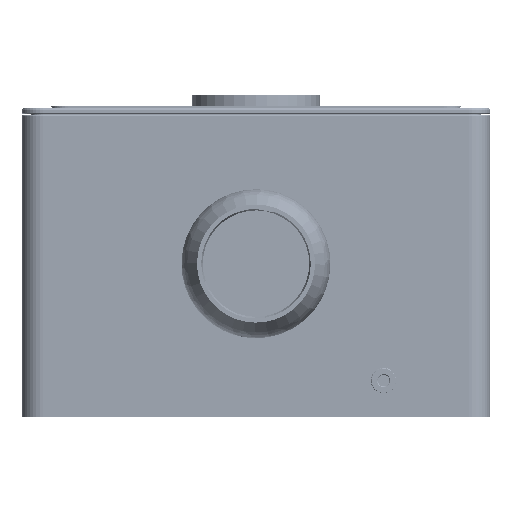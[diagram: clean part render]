
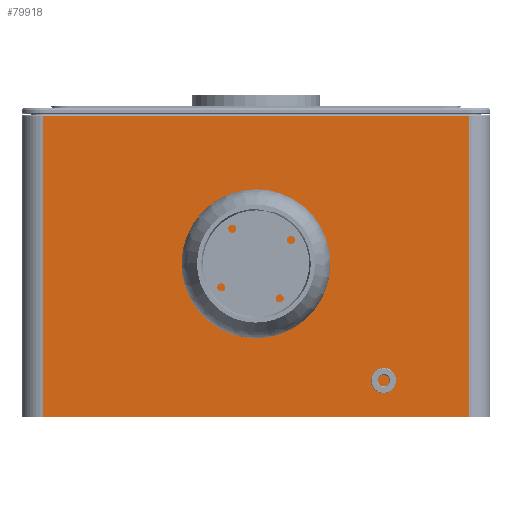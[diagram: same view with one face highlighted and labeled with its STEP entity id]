
A CAD part, front view. The second image highlights one B-rep face of the part: STEP entity #79918.
In plain terms, the highlighted planar face has unit normal (0, -1, 0).
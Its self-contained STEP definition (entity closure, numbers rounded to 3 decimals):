
#226 = CARTESIAN_POINT ( 'NONE',  ( 0., -140., 0. ) ) ;
#300 = EDGE_CURVE ( 'NONE', #74781, #137056, #21604, .T. ) ;
#927 = DIRECTION ( 'NONE',  ( 0., 0., -1. ) ) ;
#2817 = ORIENTED_EDGE ( 'NONE', *, *, #86633, .F. ) ;
#3390 = CIRCLE ( 'NONE', #62589, 4. ) ;
#4104 = DIRECTION ( 'NONE',  ( 0., -1., 0. ) ) ;
#4837 = CARTESIAN_POINT ( 'NONE',  ( 100., -140., 70. ) ) ;
#5921 = FACE_BOUND ( 'NONE', #22614, .T. ) ;
#6804 = VERTEX_POINT ( 'NONE', #95078 ) ;
#7300 = DIRECTION ( 'NONE',  ( 0., 0., -1. ) ) ;
#7828 = VERTEX_POINT ( 'NONE', #75505 ) ;
#8050 = PLANE ( 'NONE',  #116835 ) ;
#9218 = CIRCLE ( 'NONE', #22850, 1.8 ) ;
#10758 = LINE ( 'NONE', #54207, #121078 ) ;
#14528 = CARTESIAN_POINT ( 'NONE',  ( -14., -140., 12.2 ) ) ;
#15131 = ORIENTED_EDGE ( 'NONE', *, *, #100258, .T. ) ;
#16504 = CARTESIAN_POINT ( 'NONE',  ( 0., -140., 0. ) ) ;
#16589 = CIRCLE ( 'NONE', #112101, 4. ) ;
#17746 = ORIENTED_EDGE ( 'NONE', *, *, #109202, .F. ) ;
#17856 = ORIENTED_EDGE ( 'NONE', *, *, #134699, .F. ) ;
#17966 = CARTESIAN_POINT ( 'NONE',  ( 14., -140., 14. ) ) ;
#18725 = FACE_BOUND ( 'NONE', #138112, .T. ) ;
#19285 = AXIS2_PLACEMENT_3D ( 'NONE', #113722, #4104, #81004 ) ;
#19867 = CARTESIAN_POINT ( 'NONE',  ( 14., -140., -14. ) ) ;
#20876 = DIRECTION ( 'NONE',  ( -1., 0., 0. ) ) ;
#21604 = CIRCLE ( 'NONE', #19285, 1.8 ) ;
#22614 = EDGE_LOOP ( 'NONE', ( #96143, #2817 ) ) ;
#22850 = AXIS2_PLACEMENT_3D ( 'NONE', #17966, #49348, #7300 ) ;
#22980 = CARTESIAN_POINT ( 'NONE',  ( -100., -140., -72. ) ) ;
#23759 = DIRECTION ( 'NONE',  ( 0., 0., -1. ) ) ;
#24153 = LINE ( 'NONE', #4837, #31942 ) ;
#25548 = DIRECTION ( 'NONE',  ( 0., 0., -1. ) ) ;
#27313 = FACE_BOUND ( 'NONE', #44460, .T. ) ;
#31942 = VECTOR ( 'NONE', #25548, 1000. ) ;
#34784 = LINE ( 'NONE', #112312, #73362 ) ;
#35759 = EDGE_CURVE ( 'NONE', #52061, #140087, #9218, .T. ) ;
#37911 = CARTESIAN_POINT ( 'NONE',  ( -14., -140., -12.2 ) ) ;
#39407 = ORIENTED_EDGE ( 'NONE', *, *, #135590, .F. ) ;
#40891 = VERTEX_POINT ( 'NONE', #138636 ) ;
#42330 = EDGE_CURVE ( 'NONE', #53230, #114057, #34784, .T. ) ;
#42542 = DIRECTION ( 'NONE',  ( 0., -1., 0. ) ) ;
#44460 = EDGE_LOOP ( 'NONE', ( #58910, #63777 ) ) ;
#46294 = CIRCLE ( 'NONE', #116828, 1.8 ) ;
#48294 = EDGE_LOOP ( 'NONE', ( #111867, #94812 ) ) ;
#49348 = DIRECTION ( 'NONE',  ( 0., -1., 0. ) ) ;
#49386 = FACE_OUTER_BOUND ( 'NONE', #96244, .T. ) ;
#49471 = CARTESIAN_POINT ( 'NONE',  ( 14., -140., 14. ) ) ;
#52061 = VERTEX_POINT ( 'NONE', #88568 ) ;
#52951 = LINE ( 'NONE', #118389, #70808 ) ;
#53230 = VERTEX_POINT ( 'NONE', #66117 ) ;
#54033 = DIRECTION ( 'NONE',  ( 0., 0., -1. ) ) ;
#54207 = CARTESIAN_POINT ( 'NONE',  ( 100., -140., -72. ) ) ;
#54391 = DIRECTION ( 'NONE',  ( 0., -1., 0. ) ) ;
#57598 = DIRECTION ( 'NONE',  ( 0., -1., 0. ) ) ;
#58218 = DIRECTION ( 'NONE',  ( 0., 0., -1. ) ) ;
#58910 = ORIENTED_EDGE ( 'NONE', *, *, #35759, .F. ) ;
#59331 = DIRECTION ( 'NONE',  ( 0., 1., 0. ) ) ;
#59945 = DIRECTION ( 'NONE',  ( 0., -1., 0. ) ) ;
#61880 = DIRECTION ( 'NONE',  ( 0., 0., -1. ) ) ;
#62151 = CIRCLE ( 'NONE', #66613, 1.8 ) ;
#62589 = AXIS2_PLACEMENT_3D ( 'NONE', #226, #77085, #927 ) ;
#63777 = ORIENTED_EDGE ( 'NONE', *, *, #123794, .F. ) ;
#66117 = CARTESIAN_POINT ( 'NONE',  ( -100., -140., 69.5 ) ) ;
#66613 = AXIS2_PLACEMENT_3D ( 'NONE', #113087, #57598, #136528 ) ;
#70808 = VECTOR ( 'NONE', #20876, 1000. ) ;
#72177 = EDGE_LOOP ( 'NONE', ( #17856, #89341 ) ) ;
#72483 = AXIS2_PLACEMENT_3D ( 'NONE', #99892, #54391, #23759 ) ;
#73362 = VECTOR ( 'NONE', #58218, 1000. ) ;
#73628 = CIRCLE ( 'NONE', #123665, 1.8 ) ;
#73643 = CARTESIAN_POINT ( 'NONE',  ( 14., -140., -12.2 ) ) ;
#74781 = VERTEX_POINT ( 'NONE', #14528 ) ;
#75505 = CARTESIAN_POINT ( 'NONE',  ( 100., -140., -72. ) ) ;
#76087 = CARTESIAN_POINT ( 'NONE',  ( -14., -140., -14. ) ) ;
#77085 = DIRECTION ( 'NONE',  ( 0., -1., 0. ) ) ;
#78685 = DIRECTION ( 'NONE',  ( 0., 0., -1. ) ) ;
#79918 = ADVANCED_FACE ( 'NONE', ( #103472, #27313, #92784, #5921, #18725, #49386 ), #8050, .F. ) ;
#80764 = CARTESIAN_POINT ( 'NONE',  ( 14., -140., 15.8 ) ) ;
#81004 = DIRECTION ( 'NONE',  ( 0., 0., -1. ) ) ;
#84827 = DIRECTION ( 'NONE',  ( 0., 0., -1. ) ) ;
#85026 = VERTEX_POINT ( 'NONE', #111668 ) ;
#86030 = DIRECTION ( 'NONE',  ( 0., -1., 0. ) ) ;
#86633 = EDGE_CURVE ( 'NONE', #137056, #74781, #73628, .T. ) ;
#87744 = ORIENTED_EDGE ( 'NONE', *, *, #118019, .F. ) ;
#88568 = CARTESIAN_POINT ( 'NONE',  ( 14., -140., 12.2 ) ) ;
#88572 = CARTESIAN_POINT ( 'NONE',  ( -14., -140., 15.8 ) ) ;
#89286 = VERTEX_POINT ( 'NONE', #128170 ) ;
#89341 = ORIENTED_EDGE ( 'NONE', *, *, #136320, .F. ) ;
#89442 = CIRCLE ( 'NONE', #114448, 1.8 ) ;
#90903 = CARTESIAN_POINT ( 'NONE',  ( 0., -140., 4. ) ) ;
#92784 = FACE_BOUND ( 'NONE', #72177, .T. ) ;
#94199 = DIRECTION ( 'NONE',  ( 0., 0., 1. ) ) ;
#94812 = ORIENTED_EDGE ( 'NONE', *, *, #118599, .F. ) ;
#95078 = CARTESIAN_POINT ( 'NONE',  ( -14., -140., -15.8 ) ) ;
#95921 = AXIS2_PLACEMENT_3D ( 'NONE', #19867, #127333, #61880 ) ;
#96143 = ORIENTED_EDGE ( 'NONE', *, *, #300, .F. ) ;
#96244 = EDGE_LOOP ( 'NONE', ( #126239, #15131, #99525, #39407 ) ) ;
#96863 = EDGE_CURVE ( 'NONE', #89286, #7828, #24153, .T. ) ;
#97597 = DIRECTION ( 'NONE',  ( -1., 0., 0. ) ) ;
#99525 = ORIENTED_EDGE ( 'NONE', *, *, #42330, .T. ) ;
#99892 = CARTESIAN_POINT ( 'NONE',  ( -14., -140., -14. ) ) ;
#100258 = EDGE_CURVE ( 'NONE', #89286, #53230, #52951, .T. ) ;
#103472 = FACE_BOUND ( 'NONE', #48294, .T. ) ;
#109202 = EDGE_CURVE ( 'NONE', #40891, #139370, #3390, .T. ) ;
#111158 = VERTEX_POINT ( 'NONE', #73643 ) ;
#111668 = CARTESIAN_POINT ( 'NONE',  ( 14., -140., -15.8 ) ) ;
#111867 = ORIENTED_EDGE ( 'NONE', *, *, #115684, .F. ) ;
#112101 = AXIS2_PLACEMENT_3D ( 'NONE', #16504, #59945, #84827 ) ;
#112312 = CARTESIAN_POINT ( 'NONE',  ( -100., -140., 70. ) ) ;
#113087 = CARTESIAN_POINT ( 'NONE',  ( 14., -140., -14. ) ) ;
#113722 = CARTESIAN_POINT ( 'NONE',  ( -14., -140., 14. ) ) ;
#114057 = VERTEX_POINT ( 'NONE', #22980 ) ;
#114448 = AXIS2_PLACEMENT_3D ( 'NONE', #76087, #86030, #54033 ) ;
#115684 = EDGE_CURVE ( 'NONE', #6804, #117865, #133796, .T. ) ;
#116828 = AXIS2_PLACEMENT_3D ( 'NONE', #49471, #136250, #78685 ) ;
#116835 = AXIS2_PLACEMENT_3D ( 'NONE', #134764, #59331, #94199 ) ;
#117865 = VERTEX_POINT ( 'NONE', #37911 ) ;
#118019 = EDGE_CURVE ( 'NONE', #139370, #40891, #16589, .T. ) ;
#118389 = CARTESIAN_POINT ( 'NONE',  ( -100., -140., 69.5 ) ) ;
#118599 = EDGE_CURVE ( 'NONE', #117865, #6804, #89442, .T. ) ;
#121078 = VECTOR ( 'NONE', #97597, 1000. ) ;
#123665 = AXIS2_PLACEMENT_3D ( 'NONE', #127220, #42542, #140048 ) ;
#123794 = EDGE_CURVE ( 'NONE', #140087, #52061, #46294, .T. ) ;
#126239 = ORIENTED_EDGE ( 'NONE', *, *, #96863, .F. ) ;
#127220 = CARTESIAN_POINT ( 'NONE',  ( -14., -140., 14. ) ) ;
#127333 = DIRECTION ( 'NONE',  ( 0., -1., 0. ) ) ;
#128170 = CARTESIAN_POINT ( 'NONE',  ( 100., -140., 69.5 ) ) ;
#133796 = CIRCLE ( 'NONE', #72483, 1.8 ) ;
#134699 = EDGE_CURVE ( 'NONE', #85026, #111158, #139096, .T. ) ;
#134764 = CARTESIAN_POINT ( 'NONE',  ( -100., -140., 70. ) ) ;
#135590 = EDGE_CURVE ( 'NONE', #7828, #114057, #10758, .T. ) ;
#136250 = DIRECTION ( 'NONE',  ( 0., -1., 0. ) ) ;
#136320 = EDGE_CURVE ( 'NONE', #111158, #85026, #62151, .T. ) ;
#136528 = DIRECTION ( 'NONE',  ( 0., 0., -1. ) ) ;
#137056 = VERTEX_POINT ( 'NONE', #88572 ) ;
#138112 = EDGE_LOOP ( 'NONE', ( #17746, #87744 ) ) ;
#138636 = CARTESIAN_POINT ( 'NONE',  ( 0., -140., -4. ) ) ;
#139096 = CIRCLE ( 'NONE', #95921, 1.8 ) ;
#139370 = VERTEX_POINT ( 'NONE', #90903 ) ;
#140048 = DIRECTION ( 'NONE',  ( 0., 0., -1. ) ) ;
#140087 = VERTEX_POINT ( 'NONE', #80764 ) ;
